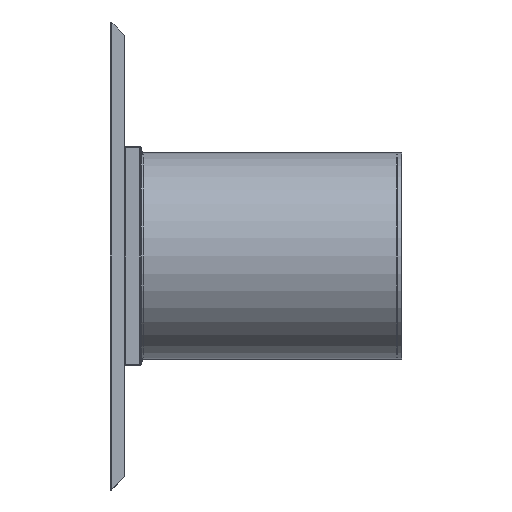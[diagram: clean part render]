
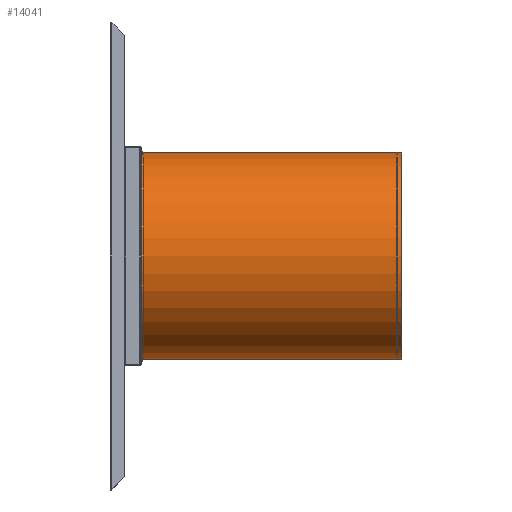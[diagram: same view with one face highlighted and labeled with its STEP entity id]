
A CAD part, left-side view. The second image highlights one B-rep face of the part: STEP entity #14041.
In plain terms, the highlighted cylindrical face has radius 265 mm (diameter 530 mm), a partial arc.
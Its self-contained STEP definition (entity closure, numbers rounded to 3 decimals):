
#108 = CARTESIAN_POINT ( 'NONE',  ( 0., 670., 265. ) ) ;
#370 = CIRCLE ( 'NONE', #12713, 265. ) ;
#905 = AXIS2_PLACEMENT_3D ( 'NONE', #11019, #7319, #16452 ) ;
#1385 = FACE_OUTER_BOUND ( 'NONE', #2598, .T. ) ;
#1638 = CARTESIAN_POINT ( 'NONE',  ( 0., 670., 0. ) ) ;
#1768 = DIRECTION ( 'NONE',  ( 0., -1., 0. ) ) ;
#1856 = VERTEX_POINT ( 'NONE', #7772 ) ;
#2171 = VECTOR ( 'NONE', #11612, 1000. ) ;
#2541 = EDGE_CURVE ( 'NONE', #9601, #2775, #12957, .T. ) ;
#2594 = ORIENTED_EDGE ( 'NONE', *, *, #7182, .T. ) ;
#2598 = EDGE_LOOP ( 'NONE', ( #9912, #15853, #2594, #11361 ) ) ;
#2775 = VERTEX_POINT ( 'NONE', #7399 ) ;
#5345 = EDGE_CURVE ( 'NONE', #1856, #9601, #370, .T. ) ;
#6496 = CARTESIAN_POINT ( 'NONE',  ( 0., 670., 265. ) ) ;
#7182 = EDGE_CURVE ( 'NONE', #1856, #7344, #10659, .T. ) ;
#7319 = DIRECTION ( 'NONE',  ( 0., 1., 0. ) ) ;
#7344 = VERTEX_POINT ( 'NONE', #10063 ) ;
#7399 = CARTESIAN_POINT ( 'NONE',  ( 0., 0., 265. ) ) ;
#7772 = CARTESIAN_POINT ( 'NONE',  ( 0., 670., -265. ) ) ;
#8497 = CARTESIAN_POINT ( 'NONE',  ( 0., 670., 0. ) ) ;
#9601 = VERTEX_POINT ( 'NONE', #108 ) ;
#9912 = ORIENTED_EDGE ( 'NONE', *, *, #2541, .F. ) ;
#10063 = CARTESIAN_POINT ( 'NONE',  ( 0., 0., -265. ) ) ;
#10659 = LINE ( 'NONE', #15771, #12781 ) ;
#10755 = DIRECTION ( 'NONE',  ( 0., 0., 1. ) ) ;
#11019 = CARTESIAN_POINT ( 'NONE',  ( 0., 0., 0. ) ) ;
#11361 = ORIENTED_EDGE ( 'NONE', *, *, #12952, .T. ) ;
#11612 = DIRECTION ( 'NONE',  ( 0., -1., 0. ) ) ;
#11701 = CYLINDRICAL_SURFACE ( 'NONE', #12474, 265. ) ;
#11787 = DIRECTION ( 'NONE',  ( 0., 0., -1. ) ) ;
#12190 = DIRECTION ( 'NONE',  ( 0., 1., 0. ) ) ;
#12474 = AXIS2_PLACEMENT_3D ( 'NONE', #1638, #12962, #11787 ) ;
#12713 = AXIS2_PLACEMENT_3D ( 'NONE', #8497, #12190, #10755 ) ;
#12781 = VECTOR ( 'NONE', #1768, 1000. ) ;
#12952 = EDGE_CURVE ( 'NONE', #7344, #2775, #13228, .T. ) ;
#12957 = LINE ( 'NONE', #6496, #2171 ) ;
#12962 = DIRECTION ( 'NONE',  ( 0., -1., 0. ) ) ;
#13228 = CIRCLE ( 'NONE', #905, 265. ) ;
#14041 = ADVANCED_FACE ( 'NONE', ( #1385 ), #11701, .T. ) ;
#15771 = CARTESIAN_POINT ( 'NONE',  ( 0., 670., -265. ) ) ;
#15853 = ORIENTED_EDGE ( 'NONE', *, *, #5345, .F. ) ;
#16452 = DIRECTION ( 'NONE',  ( 0., 0., 1. ) ) ;
